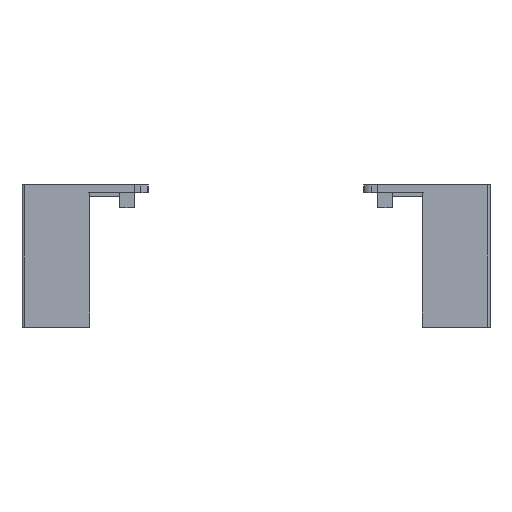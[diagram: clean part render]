
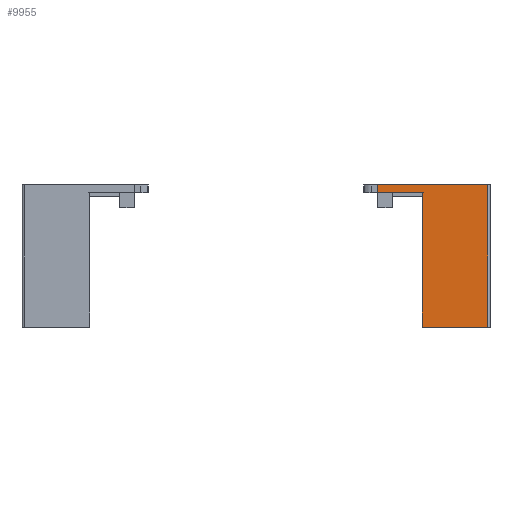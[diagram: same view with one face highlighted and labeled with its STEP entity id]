
A CAD part, left-side view. The second image highlights one B-rep face of the part: STEP entity #9955.
In plain terms, the highlighted planar face has unit normal (-1, 0, 0).
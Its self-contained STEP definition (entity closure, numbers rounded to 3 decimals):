
#30 = EDGE_CURVE ( 'NONE', #7086, #5876, #2928, .T. ) ;
#325 = CARTESIAN_POINT ( 'NONE',  ( -112.4, -112.085, 90.85 ) ) ;
#663 = CARTESIAN_POINT ( 'NONE',  ( -112.4, -108.101, 95.662 ) ) ;
#758 = AXIS2_PLACEMENT_3D ( 'NONE', #10206, #1930, #13054 ) ;
#1930 = DIRECTION ( 'NONE',  ( 1., 0., 0. ) ) ;
#2216 = VERTEX_POINT ( 'NONE', #4668 ) ;
#2457 = CARTESIAN_POINT ( 'NONE',  ( -112.4, -152.085, 95.65 ) ) ;
#2523 = ORIENTED_EDGE ( 'NONE', *, *, #8445, .T. ) ;
#2732 = DIRECTION ( 'NONE',  ( 0., 0., -1. ) ) ;
#2856 = EDGE_CURVE ( 'NONE', #12659, #7086, #4704, .T. ) ;
#2928 = LINE ( 'NONE', #2457, #11472 ) ;
#3189 = CARTESIAN_POINT ( 'NONE',  ( -112.4, -108.101, 3.25 ) ) ;
#3191 = VECTOR ( 'NONE', #3415, 1000. ) ;
#3264 = LINE ( 'NONE', #11819, #9736 ) ;
#3292 = CARTESIAN_POINT ( 'NONE',  ( -112.4, -152.085, 3.25 ) ) ;
#3415 = DIRECTION ( 'NONE',  ( 0., 1., 0. ) ) ;
#3654 = EDGE_CURVE ( 'NONE', #2216, #12659, #6614, .T. ) ;
#3822 = ORIENTED_EDGE ( 'NONE', *, *, #30, .F. ) ;
#3921 = EDGE_LOOP ( 'NONE', ( #8321, #2523, #3822, #7378, #8414, #6576 ) ) ;
#4202 = VECTOR ( 'NONE', #6524, 1000. ) ;
#4626 = VERTEX_POINT ( 'NONE', #3189 ) ;
#4668 = CARTESIAN_POINT ( 'NONE',  ( -112.4, -108.101, 90.85 ) ) ;
#4704 = LINE ( 'NONE', #7531, #12562 ) ;
#4914 = CARTESIAN_POINT ( 'NONE',  ( -112.4, -79.085, 90.85 ) ) ;
#5876 = VERTEX_POINT ( 'NONE', #7459 ) ;
#6311 = VECTOR ( 'NONE', #2732, 1000. ) ;
#6322 = VERTEX_POINT ( 'NONE', #10887 ) ;
#6414 = FACE_OUTER_BOUND ( 'NONE', #3921, .T. ) ;
#6418 = EDGE_CURVE ( 'NONE', #2216, #4626, #12395, .T. ) ;
#6524 = DIRECTION ( 'NONE',  ( 0., 1., 0. ) ) ;
#6576 = ORIENTED_EDGE ( 'NONE', *, *, #6418, .T. ) ;
#6614 = LINE ( 'NONE', #325, #3191 ) ;
#7050 = CARTESIAN_POINT ( 'NONE',  ( -112.4, -79.085, 95.65 ) ) ;
#7086 = VERTEX_POINT ( 'NONE', #7050 ) ;
#7378 = ORIENTED_EDGE ( 'NONE', *, *, #2856, .F. ) ;
#7459 = CARTESIAN_POINT ( 'NONE',  ( -112.4, -150.585, 95.65 ) ) ;
#7531 = CARTESIAN_POINT ( 'NONE',  ( -112.4, -79.085, 95.65 ) ) ;
#8109 = PLANE ( 'NONE',  #758 ) ;
#8321 = ORIENTED_EDGE ( 'NONE', *, *, #11689, .F. ) ;
#8414 = ORIENTED_EDGE ( 'NONE', *, *, #3654, .F. ) ;
#8445 = EDGE_CURVE ( 'NONE', #6322, #5876, #3264, .T. ) ;
#8547 = DIRECTION ( 'NONE',  ( 0., 0., 1. ) ) ;
#9676 = LINE ( 'NONE', #3292, #4202 ) ;
#9736 = VECTOR ( 'NONE', #9767, 1000. ) ;
#9767 = DIRECTION ( 'NONE',  ( 0., 0., 1. ) ) ;
#9955 = ADVANCED_FACE ( 'NONE', ( #6414 ), #8109, .F. ) ;
#10206 = CARTESIAN_POINT ( 'NONE',  ( -112.4, -152.085, 3.25 ) ) ;
#10887 = CARTESIAN_POINT ( 'NONE',  ( -112.4, -150.585, 3.25 ) ) ;
#11472 = VECTOR ( 'NONE', #12899, 1000. ) ;
#11689 = EDGE_CURVE ( 'NONE', #6322, #4626, #9676, .T. ) ;
#11819 = CARTESIAN_POINT ( 'NONE',  ( -112.4, -150.585, 3.25 ) ) ;
#12395 = LINE ( 'NONE', #663, #6311 ) ;
#12562 = VECTOR ( 'NONE', #8547, 1000. ) ;
#12659 = VERTEX_POINT ( 'NONE', #4914 ) ;
#12899 = DIRECTION ( 'NONE',  ( 0., -1., 0. ) ) ;
#13054 = DIRECTION ( 'NONE',  ( 0., 1., 0. ) ) ;
